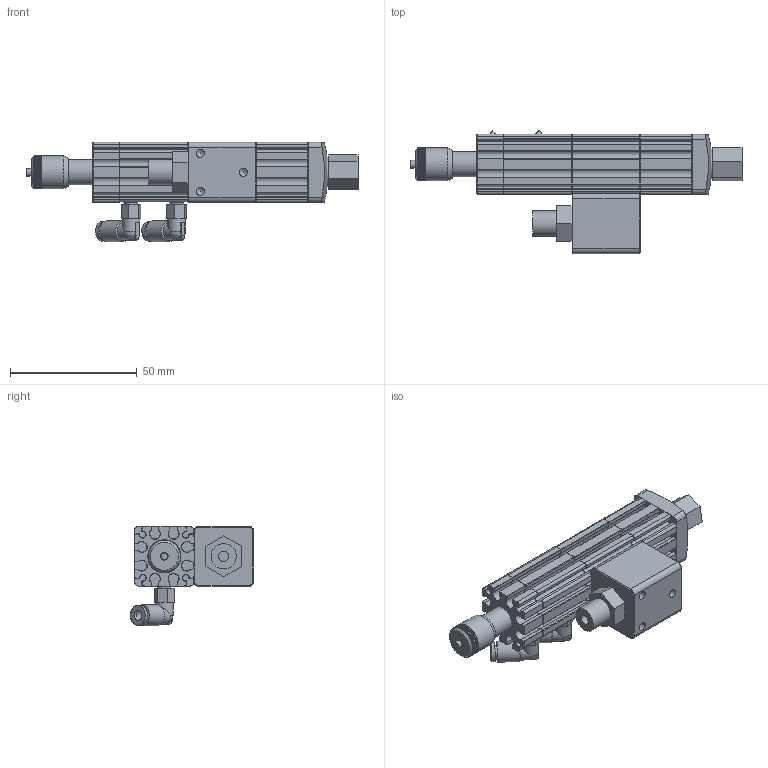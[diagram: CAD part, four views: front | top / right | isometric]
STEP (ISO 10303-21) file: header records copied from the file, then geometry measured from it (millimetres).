
FILE_DESCRIPTION (( 'STEP AP214' ), '1' );
FILE_NAME ('DAV-200-18.STEP', '2024-10-11T10:16:43', ( '' ), ( '' ), 'SwSTEP 2.0', 'SolidWorks 2024', '' );
FILE_SCHEMA (( 'AUTOMOTIVE_DESIGN' ));
Length unit declared in the file: millimetre
Products named in the file (1): DAV-200-18
Bounding box: 131.05 x 48.74 x 39.26 mm (x, y, z)
Volume: 57053.7 mm3; surface area: 25539 mm2
Topology: 1 solids, 1 shells, 1342 faces, 3324 edges, 1903 vertices
Faces by surface type: plane 848, cone 272, cylinder 214, bspline 8
Full cylindrical faces by diameter (mm): 2.17 x1, 3 x1, 3.3 x3, 4 x3, 4.8 x2, 5 x2, 5.5 x2, 7 x2, 7.7 x2, 8.2 x2, 8.8 x1, 9.97 x1, 10 x1, 10.87 x1, 11.92 x1, 13 x1
Entity records: 39189 total; most frequent: CARTESIAN_POINT 9536, ORIENTED_EDGE 6346, DIRECTION 5853, EDGE_CURVE 3173, AXIS2_PLACEMENT_3D 1981, LINE 1891, VECTOR 1891, VERTEX_POINT 1889
